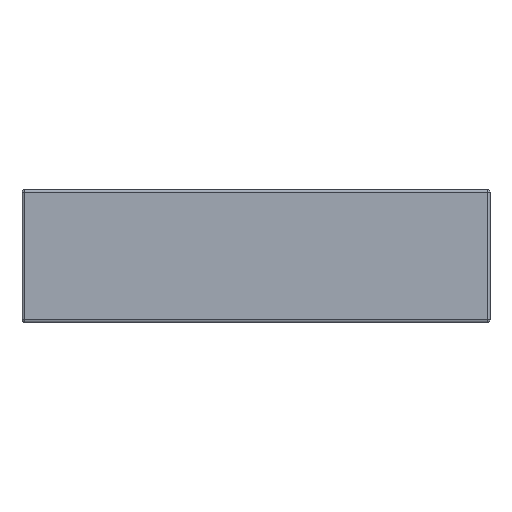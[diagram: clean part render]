
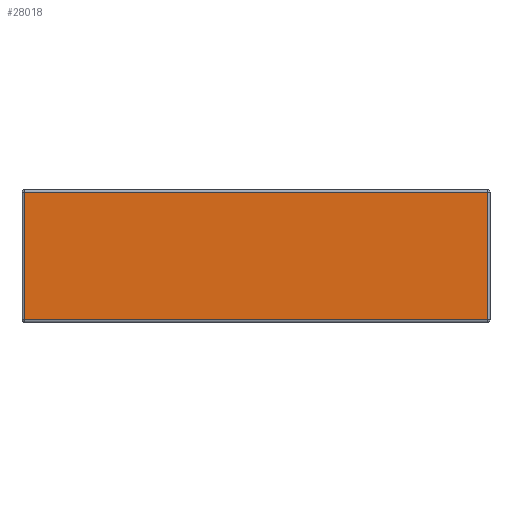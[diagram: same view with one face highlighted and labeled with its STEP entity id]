
A CAD part, front view. The second image highlights one B-rep face of the part: STEP entity #28018.
In plain terms, the highlighted planar face has unit normal (0, -1, 0).
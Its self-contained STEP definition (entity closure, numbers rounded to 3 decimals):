
#1988 = CARTESIAN_POINT ( 'NONE',  ( -103., 4.3, -26.1 ) ) ;
#3110 = DIRECTION ( 'NONE',  ( 0., 0., -1. ) ) ;
#3540 = ORIENTED_EDGE ( 'NONE', *, *, #28102, .T. ) ;
#3590 = VECTOR ( 'NONE', #18201, 1000. ) ;
#4471 = ORIENTED_EDGE ( 'NONE', *, *, #26416, .T. ) ;
#7901 = AXIS2_PLACEMENT_3D ( 'NONE', #13518, #25052, #7928 ) ;
#7928 = DIRECTION ( 'NONE',  ( 0., 0., 1. ) ) ;
#8269 = CARTESIAN_POINT ( 'NONE',  ( -103., 4.3, 26.1 ) ) ;
#10382 = LINE ( 'NONE', #23984, #3590 ) ;
#10468 = CARTESIAN_POINT ( 'NONE',  ( 86., 4.3, -26.1 ) ) ;
#10628 = DIRECTION ( 'NONE',  ( -1., 0., 0. ) ) ;
#12786 = VECTOR ( 'NONE', #13484, 1000. ) ;
#13105 = EDGE_LOOP ( 'NONE', ( #28097, #4471, #33911, #3540 ) ) ;
#13484 = DIRECTION ( 'NONE',  ( 0., 0., 1. ) ) ;
#13518 = CARTESIAN_POINT ( 'NONE',  ( 0., 4.3, 0. ) ) ;
#14990 = CARTESIAN_POINT ( 'NONE',  ( 0., 4.3, 26.1 ) ) ;
#15537 = LINE ( 'NONE', #14990, #16824 ) ;
#16824 = VECTOR ( 'NONE', #10628, 1000. ) ;
#17008 = VERTEX_POINT ( 'NONE', #20973 ) ;
#18201 = DIRECTION ( 'NONE',  ( 1., 0., 0. ) ) ;
#20499 = VERTEX_POINT ( 'NONE', #8269 ) ;
#20973 = CARTESIAN_POINT ( 'NONE',  ( 86., 4.3, 26.1 ) ) ;
#23728 = VERTEX_POINT ( 'NONE', #10468 ) ;
#23984 = CARTESIAN_POINT ( 'NONE',  ( 0., 4.3, -26.1 ) ) ;
#25052 = DIRECTION ( 'NONE',  ( 0., 1., 0. ) ) ;
#25235 = PLANE ( 'NONE',  #7901 ) ;
#26416 = EDGE_CURVE ( 'NONE', #29613, #23728, #10382, .T. ) ;
#27250 = CARTESIAN_POINT ( 'NONE',  ( 86., 4.3, 0. ) ) ;
#27790 = EDGE_CURVE ( 'NONE', #20499, #29613, #28614, .T. ) ;
#28018 = ADVANCED_FACE ( 'NONE', ( #35960 ), #25235, .F. ) ;
#28097 = ORIENTED_EDGE ( 'NONE', *, *, #27790, .T. ) ;
#28102 = EDGE_CURVE ( 'NONE', #17008, #20499, #15537, .T. ) ;
#28614 = LINE ( 'NONE', #31927, #29877 ) ;
#29613 = VERTEX_POINT ( 'NONE', #1988 ) ;
#29877 = VECTOR ( 'NONE', #3110, 1000. ) ;
#29907 = EDGE_CURVE ( 'NONE', #23728, #17008, #30760, .T. ) ;
#30760 = LINE ( 'NONE', #27250, #12786 ) ;
#31927 = CARTESIAN_POINT ( 'NONE',  ( -103., 4.3, 0. ) ) ;
#33911 = ORIENTED_EDGE ( 'NONE', *, *, #29907, .T. ) ;
#35960 = FACE_OUTER_BOUND ( 'NONE', #13105, .T. ) ;
